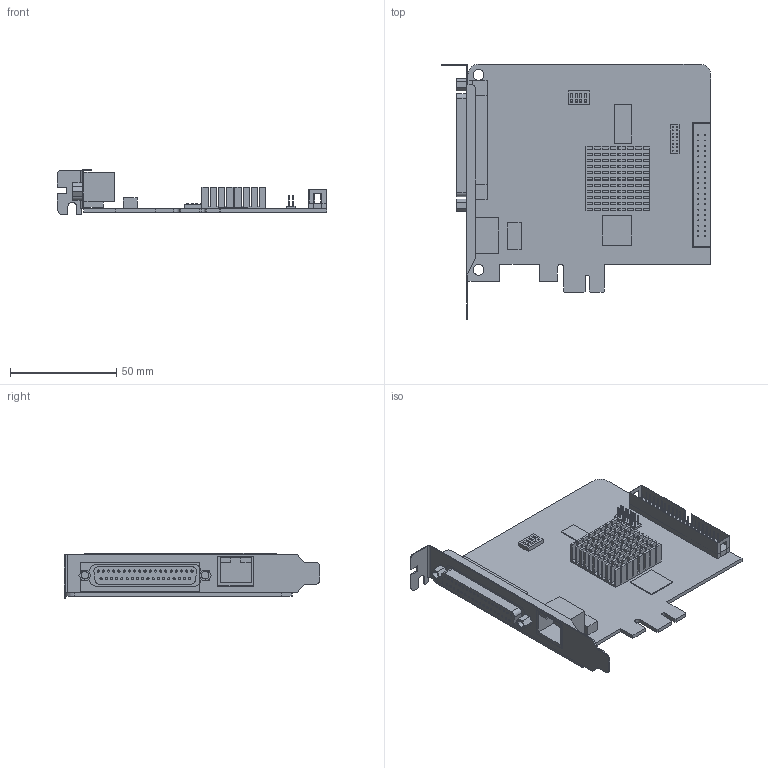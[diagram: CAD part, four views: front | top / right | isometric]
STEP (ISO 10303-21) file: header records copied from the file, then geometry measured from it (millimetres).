
FILE_DESCRIPTION (( 'STEP AP203' ), '1' );
FILE_NAME ('pcie464.STEP', '2024-02-20T03:51:40', ( '' ), ( '' ), 'SwSTEP 2.0', 'SolidWorks 2019', '' );
FILE_SCHEMA (( 'CONFIG_CONTROL_DESIGN' ));
Length unit declared in the file: millimetre
Products named in the file (1): pcie464
Bounding box: 126.5 x 120 x 21.5 mm (x, y, z)
Volume: 36332.4 mm3; surface area: 42002.4 mm2
Topology: 4 solids, 4 shells, 965 faces, 2355 edges, 1555 vertices
Faces by surface type: plane 746, cylinder 219
Entity records: 28188 total; most frequent: CARTESIAN_POINT 4876, DIRECTION 4727, ORIENTED_EDGE 4710, EDGE_CURVE 2355, VECTOR 1915, LINE 1915, VERTEX_POINT 1555, AXIS2_PLACEMENT_3D 1406
